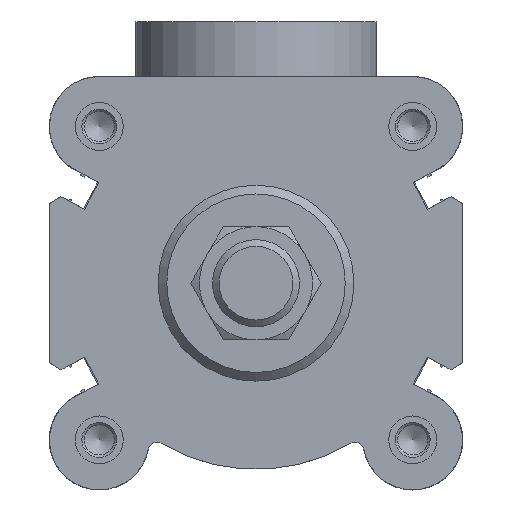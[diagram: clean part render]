
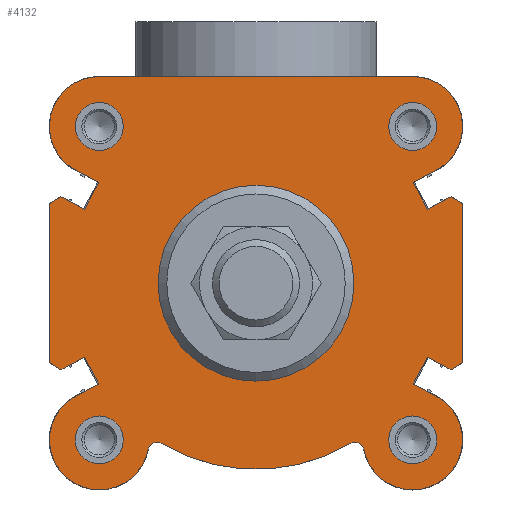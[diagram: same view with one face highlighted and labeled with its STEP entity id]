
A CAD part, left-side view. The second image highlights one B-rep face of the part: STEP entity #4132.
In plain terms, the highlighted planar face has unit normal (-1, 0, 0).
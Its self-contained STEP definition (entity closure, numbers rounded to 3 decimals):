
#189=LINE('',#6323,#571);
#200=LINE('',#6343,#582);
#203=LINE('',#6349,#585);
#218=LINE('',#6375,#600);
#228=LINE('',#6393,#610);
#231=LINE('',#6399,#613);
#249=LINE('',#6436,#631);
#258=LINE('',#6452,#640);
#261=LINE('',#6458,#643);
#281=LINE('',#6495,#663);
#291=LINE('',#6513,#673);
#294=LINE('',#6519,#676);
#313=LINE('',#6564,#695);
#315=LINE('',#6570,#697);
#317=LINE('',#6574,#699);
#319=LINE('',#6578,#701);
#322=LINE('',#6592,#704);
#324=LINE('',#6596,#706);
#326=LINE('',#6600,#708);
#571=VECTOR('',#5028,1000.);
#582=VECTOR('',#5041,1000.);
#585=VECTOR('',#5046,1000.);
#600=VECTOR('',#5069,1000.);
#610=VECTOR('',#5081,1000.);
#613=VECTOR('',#5086,1000.);
#631=VECTOR('',#5122,1000.);
#640=VECTOR('',#5133,1000.);
#643=VECTOR('',#5138,1000.);
#663=VECTOR('',#5166,1000.);
#673=VECTOR('',#5178,1000.);
#676=VECTOR('',#5183,1000.);
#695=VECTOR('',#5220,1000.);
#697=VECTOR('',#5228,1000.);
#699=VECTOR('',#5232,1000.);
#701=VECTOR('',#5236,1000.);
#704=VECTOR('',#5257,1000.);
#706=VECTOR('',#5261,1000.);
#708=VECTOR('',#5265,1000.);
#1313=ORIENTED_EDGE('',*,*,#2336,.F.);
#1314=ORIENTED_EDGE('',*,*,#2337,.F.);
#1315=ORIENTED_EDGE('',*,*,#2338,.F.);
#1316=ORIENTED_EDGE('',*,*,#2339,.F.);
#1317=ORIENTED_EDGE('',*,*,#2340,.F.);
#1318=ORIENTED_EDGE('',*,*,#2314,.F.);
#1319=ORIENTED_EDGE('',*,*,#2293,.F.);
#1320=ORIENTED_EDGE('',*,*,#2290,.F.);
#1321=ORIENTED_EDGE('',*,*,#2280,.F.);
#1322=ORIENTED_EDGE('',*,*,#2335,.F.);
#1323=ORIENTED_EDGE('',*,*,#2333,.F.);
#1324=ORIENTED_EDGE('',*,*,#2331,.F.);
#1325=ORIENTED_EDGE('',*,*,#2260,.F.);
#1326=ORIENTED_EDGE('',*,*,#2257,.F.);
#1327=ORIENTED_EDGE('',*,*,#2248,.F.);
#1328=ORIENTED_EDGE('',*,*,#2330,.F.);
#1329=ORIENTED_EDGE('',*,*,#2328,.T.);
#1330=ORIENTED_EDGE('',*,*,#2241,.F.);
#1331=ORIENTED_EDGE('',*,*,#2327,.T.);
#1332=ORIENTED_EDGE('',*,*,#2325,.F.);
#1333=ORIENTED_EDGE('',*,*,#2227,.F.);
#1334=ORIENTED_EDGE('',*,*,#2224,.F.);
#1335=ORIENTED_EDGE('',*,*,#2214,.F.);
#1336=ORIENTED_EDGE('',*,*,#2324,.F.);
#1337=ORIENTED_EDGE('',*,*,#2322,.F.);
#1338=ORIENTED_EDGE('',*,*,#2320,.F.);
#1339=ORIENTED_EDGE('',*,*,#2199,.F.);
#1340=ORIENTED_EDGE('',*,*,#2196,.F.);
#1341=ORIENTED_EDGE('',*,*,#2185,.F.);
#1342=ORIENTED_EDGE('',*,*,#2319,.F.);
#1343=ORIENTED_EDGE('',*,*,#2317,.F.);
#2185=EDGE_CURVE('',#2752,#2753,#189,.T.);
#2196=EDGE_CURVE('',#2753,#2761,#200,.T.);
#2199=EDGE_CURVE('',#2761,#2763,#203,.T.);
#2214=EDGE_CURVE('',#2769,#2770,#218,.T.);
#2224=EDGE_CURVE('',#2770,#2777,#228,.T.);
#2227=EDGE_CURVE('',#2777,#2779,#231,.T.);
#2241=EDGE_CURVE('',#2785,#2786,#3076,.T.);
#2248=EDGE_CURVE('',#2788,#2789,#249,.T.);
#2257=EDGE_CURVE('',#2789,#2795,#258,.T.);
#2260=EDGE_CURVE('',#2795,#2797,#261,.T.);
#2280=EDGE_CURVE('',#2809,#2810,#281,.T.);
#2290=EDGE_CURVE('',#2810,#2817,#291,.T.);
#2293=EDGE_CURVE('',#2817,#2819,#294,.T.);
#2314=EDGE_CURVE('',#2819,#2834,#3081,.T.);
#2317=EDGE_CURVE('',#2834,#2836,#313,.T.);
#2319=EDGE_CURVE('',#2836,#2752,#3083,.T.);
#2320=EDGE_CURVE('',#2763,#2837,#315,.T.);
#2322=EDGE_CURVE('',#2837,#2838,#317,.T.);
#2324=EDGE_CURVE('',#2838,#2769,#319,.T.);
#2325=EDGE_CURVE('',#2779,#2839,#3084,.T.);
#2327=EDGE_CURVE('',#2785,#2839,#3085,.T.);
#2328=EDGE_CURVE('',#2840,#2786,#3086,.T.);
#2330=EDGE_CURVE('',#2840,#2788,#3087,.T.);
#2331=EDGE_CURVE('',#2797,#2841,#322,.T.);
#2333=EDGE_CURVE('',#2841,#2842,#324,.T.);
#2335=EDGE_CURVE('',#2842,#2809,#326,.T.);
#2336=EDGE_CURVE('',#2843,#2843,#3088,.T.);
#2337=EDGE_CURVE('',#2844,#2844,#3089,.T.);
#2338=EDGE_CURVE('',#2845,#2845,#3090,.T.);
#2339=EDGE_CURVE('',#2846,#2846,#3091,.T.);
#2340=EDGE_CURVE('',#2847,#2847,#3092,.F.);
#2752=VERTEX_POINT('',#6322);
#2753=VERTEX_POINT('',#6324);
#2761=VERTEX_POINT('',#6344);
#2763=VERTEX_POINT('',#6350);
#2769=VERTEX_POINT('',#6374);
#2770=VERTEX_POINT('',#6376);
#2777=VERTEX_POINT('',#6394);
#2779=VERTEX_POINT('',#6400);
#2785=VERTEX_POINT('',#6422);
#2786=VERTEX_POINT('',#6424);
#2788=VERTEX_POINT('',#6435);
#2789=VERTEX_POINT('',#6437);
#2795=VERTEX_POINT('',#6453);
#2797=VERTEX_POINT('',#6459);
#2809=VERTEX_POINT('',#6494);
#2810=VERTEX_POINT('',#6496);
#2817=VERTEX_POINT('',#6514);
#2819=VERTEX_POINT('',#6520);
#2834=VERTEX_POINT('',#6559);
#2836=VERTEX_POINT('',#6565);
#2837=VERTEX_POINT('',#6571);
#2838=VERTEX_POINT('',#6575);
#2839=VERTEX_POINT('',#6581);
#2840=VERTEX_POINT('',#6587);
#2841=VERTEX_POINT('',#6593);
#2842=VERTEX_POINT('',#6597);
#2843=VERTEX_POINT('',#6603);
#2844=VERTEX_POINT('',#6605);
#2845=VERTEX_POINT('',#6607);
#2846=VERTEX_POINT('',#6609);
#2847=VERTEX_POINT('',#6611);
#3076=CIRCLE('',#4463,42.75);
#3081=CIRCLE('',#4482,11.45);
#3083=CIRCLE('',#4486,11.45);
#3084=CIRCLE('',#4491,11.45);
#3085=CIRCLE('',#4493,2.);
#3086=CIRCLE('',#4495,2.);
#3087=CIRCLE('',#4497,11.45);
#3088=CIRCLE('',#4502,5.5);
#3089=CIRCLE('',#4503,5.5);
#3090=CIRCLE('',#4504,5.5);
#3091=CIRCLE('',#4505,5.5);
#3092=CIRCLE('',#4506,22.5);
#3270=EDGE_LOOP('',(#1313));
#3271=EDGE_LOOP('',(#1314));
#3272=EDGE_LOOP('',(#1315));
#3273=EDGE_LOOP('',(#1316));
#3274=EDGE_LOOP('',(#1317));
#3275=EDGE_LOOP('',(#1318,#1319,#1320,#1321,#1322,#1323,#1324,#1325,#1326,
#1327,#1328,#1329,#1330,#1331,#1332,#1333,#1334,#1335,#1336,#1337,#1338,
#1339,#1340,#1341,#1342,#1343));
#3618=FACE_BOUND('',#3270,.T.);
#3619=FACE_BOUND('',#3271,.T.);
#3620=FACE_BOUND('',#3272,.T.);
#3621=FACE_BOUND('',#3273,.T.);
#3622=FACE_BOUND('',#3274,.T.);
#3623=FACE_BOUND('',#3275,.T.);
#3953=PLANE('',#4501);
#4132=ADVANCED_FACE('',(#3618,#3619,#3620,#3621,#3622,#3623),#3953,.F.);
#4463=AXIS2_PLACEMENT_3D('',#6423,#5107,#5108);
#4482=AXIS2_PLACEMENT_3D('',#6558,#5213,#5214);
#4486=AXIS2_PLACEMENT_3D('',#6568,#5224,#5225);
#4491=AXIS2_PLACEMENT_3D('',#6580,#5239,#5240);
#4493=AXIS2_PLACEMENT_3D('',#6584,#5244,#5245);
#4495=AXIS2_PLACEMENT_3D('',#6586,#5248,#5249);
#4497=AXIS2_PLACEMENT_3D('',#6590,#5253,#5254);
#4501=AXIS2_PLACEMENT_3D('',#6601,#5266,#5267);
#4502=AXIS2_PLACEMENT_3D('',#6602,#5268,#5269);
#4503=AXIS2_PLACEMENT_3D('',#6604,#5270,#5271);
#4504=AXIS2_PLACEMENT_3D('',#6606,#5272,#5273);
#4505=AXIS2_PLACEMENT_3D('',#6608,#5274,#5275);
#4506=AXIS2_PLACEMENT_3D('',#6610,#5276,#5277);
#5028=DIRECTION('',(0.,0.883,-0.469));
#5041=DIRECTION('',(0.,-0.469,-0.883));
#5046=DIRECTION('',(0.,-0.883,0.469));
#5069=DIRECTION('',(0.,0.883,0.469));
#5081=DIRECTION('',(0.,0.469,-0.883));
#5086=DIRECTION('',(0.,-0.883,-0.469));
#5107=DIRECTION('',(1.,0.,0.));
#5108=DIRECTION('',(0.,0.,-1.));
#5122=DIRECTION('',(0.,-0.883,0.469));
#5133=DIRECTION('',(0.,0.469,0.883));
#5138=DIRECTION('',(0.,0.883,-0.469));
#5166=DIRECTION('',(0.,-0.883,-0.469));
#5178=DIRECTION('',(0.,-0.469,0.883));
#5183=DIRECTION('',(0.,0.883,0.469));
#5213=DIRECTION('',(1.,0.,0.));
#5214=DIRECTION('',(0.,0.,-1.));
#5220=DIRECTION('',(0.,-1.,0.));
#5224=DIRECTION('',(1.,0.,0.));
#5225=DIRECTION('',(0.,0.,-1.));
#5228=DIRECTION('',(0.,-0.857,-0.515));
#5232=DIRECTION('',(0.,0.,-1.));
#5236=DIRECTION('',(0.,0.857,-0.515));
#5239=DIRECTION('',(1.,0.,0.));
#5240=DIRECTION('',(0.,0.,-1.));
#5244=DIRECTION('',(1.,0.,0.));
#5245=DIRECTION('',(0.,0.,-1.));
#5248=DIRECTION('',(1.,0.,0.));
#5249=DIRECTION('',(0.,0.,-1.));
#5253=DIRECTION('',(1.,0.,0.));
#5254=DIRECTION('',(0.,0.,-1.));
#5257=DIRECTION('',(0.,0.857,0.515));
#5261=DIRECTION('',(0.,0.,1.));
#5265=DIRECTION('',(0.,-0.857,0.515));
#5266=DIRECTION('',(1.,0.,0.));
#5267=DIRECTION('',(0.,0.,-1.));
#5268=DIRECTION('',(-1.,0.,0.));
#5269=DIRECTION('',(0.,0.,1.));
#5270=DIRECTION('',(-1.,0.,0.));
#5271=DIRECTION('',(0.,0.,1.));
#5272=DIRECTION('',(-1.,0.,0.));
#5273=DIRECTION('',(0.,0.,1.));
#5274=DIRECTION('',(-1.,0.,0.));
#5275=DIRECTION('',(0.,0.,1.));
#5276=DIRECTION('',(1.,0.,0.));
#5277=DIRECTION('',(0.,0.,-1.));
#6322=CARTESIAN_POINT('',(-121.,-42.42,26.519));
#6323=CARTESIAN_POINT('',(-121.,-42.42,26.519));
#6324=CARTESIAN_POINT('',(-121.,-36.103,23.16));
#6343=CARTESIAN_POINT('',(-121.,-36.103,23.16));
#6344=CARTESIAN_POINT('',(-121.,-39.389,16.98));
#6349=CARTESIAN_POINT('',(-121.,-39.389,16.98));
#6350=CARTESIAN_POINT('',(-121.,-44.801,19.857));
#6374=CARTESIAN_POINT('',(-121.,-44.801,-19.857));
#6375=CARTESIAN_POINT('',(-121.,-44.801,-19.857));
#6376=CARTESIAN_POINT('',(-121.,-39.389,-16.98));
#6393=CARTESIAN_POINT('',(-121.,-39.389,-16.98));
#6394=CARTESIAN_POINT('',(-121.,-36.103,-23.16));
#6399=CARTESIAN_POINT('',(-121.,-36.103,-23.16));
#6400=CARTESIAN_POINT('',(-121.,-40.27,-25.376));
#6422=CARTESIAN_POINT('',(-121.,-21.769,-36.793));
#6423=CARTESIAN_POINT('',(-121.,0.,0.));
#6424=CARTESIAN_POINT('',(-121.,21.769,-36.793));
#6435=CARTESIAN_POINT('',(-121.,40.27,-25.376));
#6436=CARTESIAN_POINT('',(-121.,40.27,-25.376));
#6437=CARTESIAN_POINT('',(-121.,36.103,-23.16));
#6452=CARTESIAN_POINT('',(-121.,36.103,-23.16));
#6453=CARTESIAN_POINT('',(-121.,39.389,-16.98));
#6458=CARTESIAN_POINT('',(-121.,39.389,-16.98));
#6459=CARTESIAN_POINT('',(-121.,44.801,-19.857));
#6494=CARTESIAN_POINT('',(-121.,44.801,19.857));
#6495=CARTESIAN_POINT('',(-121.,44.801,19.857));
#6496=CARTESIAN_POINT('',(-121.,39.389,16.98));
#6513=CARTESIAN_POINT('',(-121.,39.389,16.98));
#6514=CARTESIAN_POINT('',(-121.,36.103,23.16));
#6519=CARTESIAN_POINT('',(-121.,36.103,23.16));
#6520=CARTESIAN_POINT('',(-121.,42.42,26.519));
#6558=CARTESIAN_POINT('',(-121.,36.,36.));
#6559=CARTESIAN_POINT('',(-121.,36.,47.45));
#6564=CARTESIAN_POINT('',(-121.,36.,47.45));
#6565=CARTESIAN_POINT('',(-121.,-36.,47.45));
#6568=CARTESIAN_POINT('',(-121.,-36.,36.));
#6570=CARTESIAN_POINT('',(-121.,-44.801,19.857));
#6571=CARTESIAN_POINT('',(-121.,-47.45,18.266));
#6574=CARTESIAN_POINT('',(-121.,-47.45,18.266));
#6575=CARTESIAN_POINT('',(-121.,-47.45,-18.266));
#6578=CARTESIAN_POINT('',(-121.,-47.45,-18.266));
#6580=CARTESIAN_POINT('',(-121.,-36.,-36.));
#6581=CARTESIAN_POINT('',(-121.,-24.752,-38.14));
#6584=CARTESIAN_POINT('',(-121.,-22.787,-38.514));
#6586=CARTESIAN_POINT('',(-121.,22.787,-38.514));
#6587=CARTESIAN_POINT('',(-121.,24.752,-38.14));
#6590=CARTESIAN_POINT('',(-121.,36.,-36.));
#6592=CARTESIAN_POINT('',(-121.,44.801,-19.857));
#6593=CARTESIAN_POINT('',(-121.,47.45,-18.266));
#6596=CARTESIAN_POINT('',(-121.,47.45,-18.266));
#6597=CARTESIAN_POINT('',(-121.,47.45,18.266));
#6600=CARTESIAN_POINT('',(-121.,47.45,18.266));
#6601=CARTESIAN_POINT('',(-121.,36.,36.));
#6602=CARTESIAN_POINT('',(-121.,36.,36.));
#6603=CARTESIAN_POINT('',(-121.,36.,41.5));
#6604=CARTESIAN_POINT('',(-121.,-36.,-36.));
#6605=CARTESIAN_POINT('',(-121.,-36.,-30.5));
#6606=CARTESIAN_POINT('',(-121.,36.,-36.));
#6607=CARTESIAN_POINT('',(-121.,36.,-30.5));
#6608=CARTESIAN_POINT('',(-121.,-36.,36.));
#6609=CARTESIAN_POINT('',(-121.,-36.,41.5));
#6610=CARTESIAN_POINT('',(-121.,0.,0.));
#6611=CARTESIAN_POINT('',(-121.,0.,-22.5));
